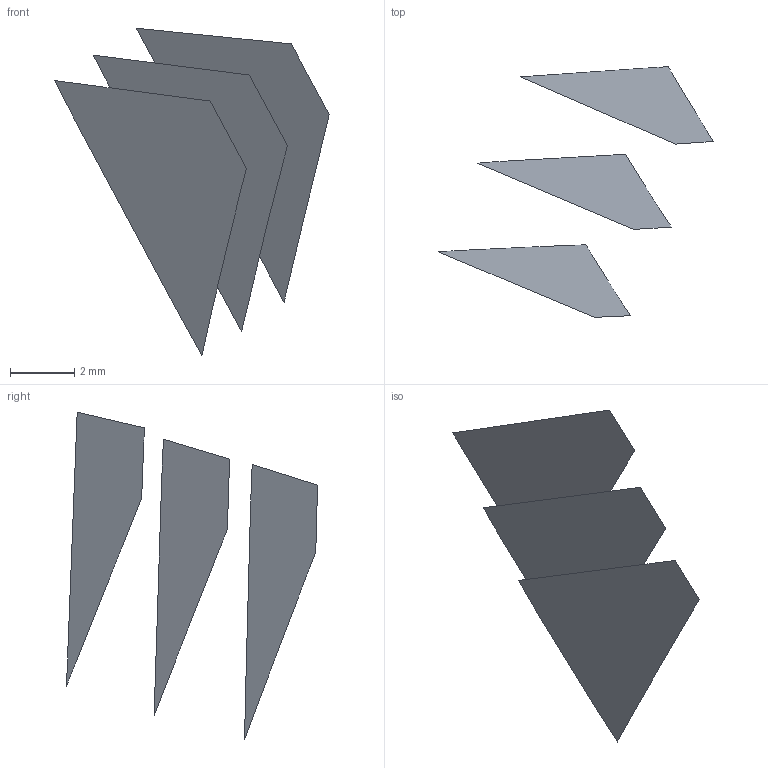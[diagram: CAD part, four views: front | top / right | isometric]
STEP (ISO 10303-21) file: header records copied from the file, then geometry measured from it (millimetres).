
FILE_DESCRIPTION(('FreeCAD Model'),'2;1');
FILE_NAME('Open CASCADE Shape Model','2022-05-22T07:50:25',('FreeCAD'),( 'FreeCAD'),'Open CASCADE STEP processor 7.5','FreeCAD','Unknown');
FILE_SCHEMA(('AUTOMOTIVE_DESIGN { 1 0 10303 214 1 1 1 1 }'));
Length unit declared in the file: millimetre
Products named in the file (4): Open CASCADE STEP translator 7.5 25; Open CASCADE STEP translator 7.5 25.1; Open CASCADE STEP translator 7.5 25.2; Open CASCADE STEP translator 7.5 25.3
Assembly tree (3 placements, depth 2):
  Open CASCADE STEP translator 7.5 25
    Open CASCADE STEP translator 7.5 25.1
    Open CASCADE STEP translator 7.5 25.2
    Open CASCADE STEP translator 7.5 25.3
Bounding box: 8.54 x 7.81 x 10.19 mm (x, y, z)
Surface area: 82.8 mm2 (no closed solid volume)
Topology: 0 solids, 3 shells, 3 faces, 26 edges, 26 vertices
Faces by surface type: bspline 3
Entity records: 438 total; most frequent: CARTESIAN_POINT 146, B_SPLINE_CURVE_WITH_KNOTS 52, ORIENTED_EDGE 26, EDGE_CURVE 26, VERTEX_POINT 26, SURFACE_CURVE 26, PCURVE 26, DEFINITIONAL_REPRESENTATION 26
